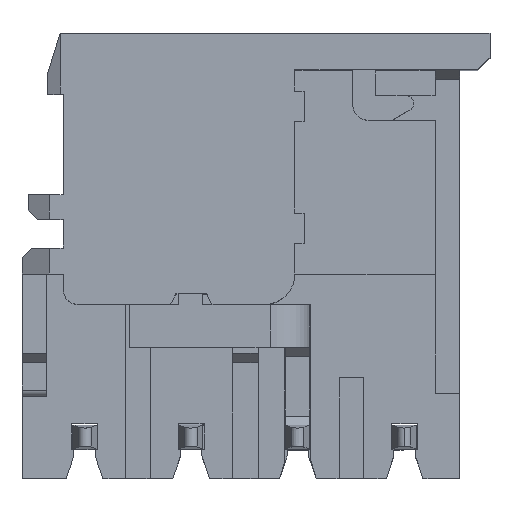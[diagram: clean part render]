
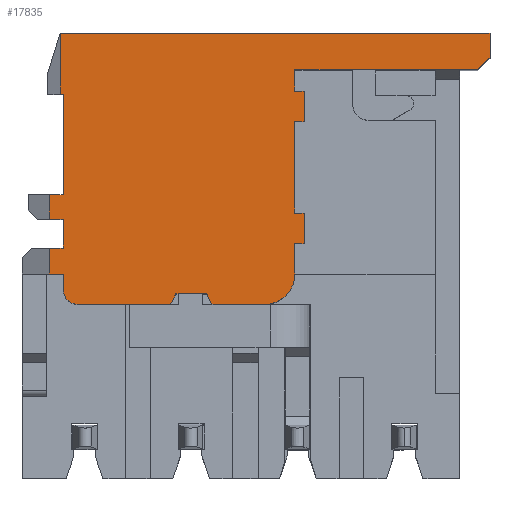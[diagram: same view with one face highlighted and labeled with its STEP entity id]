
A CAD part, top view. The second image highlights one B-rep face of the part: STEP entity #17835.
In plain terms, the highlighted planar face has unit normal (0, 0, 1).
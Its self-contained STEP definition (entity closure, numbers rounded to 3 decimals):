
#2732=DIRECTION('',(0.,-1.,0.));
#2733=VECTOR('',#2732,1.);
#2734=CARTESIAN_POINT('',(0.65,-6.9,7.5));
#2735=LINE('',#2734,#2733);
#4782=DIRECTION('',(0.461,0.888,0.));
#4783=VECTOR('',#4782,0.394);
#4784=CARTESIAN_POINT('',(-3.432,-8.9,7.5));
#4785=LINE('',#4784,#4783);
#4786=DIRECTION('',(1.,0.,0.));
#4787=VECTOR('',#4786,3.018);
#4788=CARTESIAN_POINT('',(-6.45,-8.9,7.5));
#4789=LINE('',#4788,#4787);
#4790=CARTESIAN_POINT('',(-6.45,-8.4,7.5));
#4791=DIRECTION('',(0.,0.,1.));
#4792=DIRECTION('',(-1.,0.,0.));
#4793=AXIS2_PLACEMENT_3D('',#4790,#4791,#4792);
#4795=DIRECTION('',(0.,-1.,0.));
#4796=VECTOR('',#4795,0.5);
#4797=CARTESIAN_POINT('',(-6.95,-7.9,7.5));
#4798=LINE('',#4797,#4796);
#4799=DIRECTION('',(1.,0.,0.));
#4800=VECTOR('',#4799,0.45);
#4801=CARTESIAN_POINT('',(-7.4,-7.9,7.5));
#4802=LINE('',#4801,#4800);
#4803=DIRECTION('',(0.,-1.,0.));
#4804=VECTOR('',#4803,0.85);
#4805=CARTESIAN_POINT('',(-7.4,-7.05,7.5));
#4806=LINE('',#4805,#4804);
#4807=DIRECTION('',(-1.,0.,0.));
#4808=VECTOR('',#4807,0.45);
#4809=CARTESIAN_POINT('',(-6.95,-7.05,7.5));
#4810=LINE('',#4809,#4808);
#4811=DIRECTION('',(0.,-1.,0.));
#4812=VECTOR('',#4811,0.95);
#4813=CARTESIAN_POINT('',(-6.95,-6.1,7.5));
#4814=LINE('',#4813,#4812);
#4815=DIRECTION('',(1.,0.,0.));
#4816=VECTOR('',#4815,0.45);
#4817=CARTESIAN_POINT('',(-7.4,-6.1,7.5));
#4818=LINE('',#4817,#4816);
#4819=DIRECTION('',(0.,-1.,0.));
#4820=VECTOR('',#4819,0.8);
#4821=CARTESIAN_POINT('',(-7.4,-5.3,7.5));
#4822=LINE('',#4821,#4820);
#4823=DIRECTION('',(-1.,0.,0.));
#4824=VECTOR('',#4823,0.45);
#4825=CARTESIAN_POINT('',(-6.95,-5.3,7.5));
#4826=LINE('',#4825,#4824);
#4827=DIRECTION('',(0.,-1.,0.));
#4828=VECTOR('',#4827,3.3);
#4829=CARTESIAN_POINT('',(-6.95,-2.,7.5));
#4830=LINE('',#4829,#4828);
#4831=DIRECTION('',(1.,0.,0.));
#4832=VECTOR('',#4831,0.1);
#4833=CARTESIAN_POINT('',(-7.05,-2.,7.5));
#4834=LINE('',#4833,#4832);
#4835=DIRECTION('',(-1.,0.,0.));
#4836=VECTOR('',#4835,14.1);
#4837=CARTESIAN_POINT('',(7.05,0.,7.5));
#4838=LINE('',#4837,#4836);
#4839=DIRECTION('',(0.,1.,0.));
#4840=VECTOR('',#4839,0.8);
#4841=CARTESIAN_POINT('',(7.05,-0.8,7.5));
#4842=LINE('',#4841,#4840);
#4843=DIRECTION('',(0.707,0.707,0.));
#4844=VECTOR('',#4843,0.566);
#4845=CARTESIAN_POINT('',(6.65,-1.2,7.5));
#4846=LINE('',#4845,#4844);
#4847=DIRECTION('',(1.,0.,0.));
#4848=VECTOR('',#4847,6.);
#4849=CARTESIAN_POINT('',(0.65,-1.2,7.5));
#4850=LINE('',#4849,#4848);
#4851=DIRECTION('',(0.,1.,0.));
#4852=VECTOR('',#4851,0.7);
#4853=CARTESIAN_POINT('',(0.65,-1.9,7.5));
#4854=LINE('',#4853,#4852);
#4855=CARTESIAN_POINT('',(-0.35,-7.9,7.5));
#4856=DIRECTION('',(0.,0.,1.));
#4857=DIRECTION('',(0.,-1.,0.));
#4858=AXIS2_PLACEMENT_3D('',#4855,#4856,#4857);
#4860=DIRECTION('',(1.,0.,0.));
#4861=VECTOR('',#4860,1.718);
#4862=CARTESIAN_POINT('',(-2.068,-8.9,7.5));
#4863=LINE('',#4862,#4861);
#4864=DIRECTION('',(0.461,-0.888,0.));
#4865=VECTOR('',#4864,0.394);
#4866=CARTESIAN_POINT('',(-2.25,-8.55,7.5));
#4867=LINE('',#4866,#4865);
#4868=DIRECTION('',(1.,0.,0.));
#4869=VECTOR('',#4868,1.);
#4870=CARTESIAN_POINT('',(-3.25,-8.55,7.5));
#4871=LINE('',#4870,#4869);
#5675=DIRECTION('',(1.,0.,0.));
#5676=VECTOR('',#5675,0.3);
#5677=CARTESIAN_POINT('',(0.65,-1.9,7.5));
#5678=LINE('',#5677,#5676);
#5687=DIRECTION('',(0.,-1.,0.));
#5688=VECTOR('',#5687,1.);
#5689=CARTESIAN_POINT('',(0.95,-1.9,7.5));
#5690=LINE('',#5689,#5688);
#5703=DIRECTION('',(-1.,0.,0.));
#5704=VECTOR('',#5703,0.3);
#5705=CARTESIAN_POINT('',(0.95,-2.9,7.5));
#5706=LINE('',#5705,#5704);
#5711=DIRECTION('',(0.,-1.,0.));
#5712=VECTOR('',#5711,3.);
#5713=CARTESIAN_POINT('',(0.65,-2.9,7.5));
#5714=LINE('',#5713,#5712);
#5723=DIRECTION('',(1.,0.,0.));
#5724=VECTOR('',#5723,0.3);
#5725=CARTESIAN_POINT('',(0.65,-5.9,7.5));
#5726=LINE('',#5725,#5724);
#5735=DIRECTION('',(0.,-1.,0.));
#5736=VECTOR('',#5735,1.);
#5737=CARTESIAN_POINT('',(0.95,-5.9,7.5));
#5738=LINE('',#5737,#5736);
#5751=DIRECTION('',(-1.,0.,0.));
#5752=VECTOR('',#5751,0.3);
#5753=CARTESIAN_POINT('',(0.95,-6.9,7.5));
#5754=LINE('',#5753,#5752);
#6067=DIRECTION('',(0.,1.,0.));
#6068=VECTOR('',#6067,2.);
#6069=CARTESIAN_POINT('',(-7.05,-2.,7.5));
#6070=LINE('',#6069,#6068);
#8780=CARTESIAN_POINT('',(-6.95,-8.4,7.5));
#8781=VERTEX_POINT('',#8780);
#8782=CARTESIAN_POINT('',(-6.45,-8.9,7.5));
#8783=VERTEX_POINT('',#8782);
#8784=CARTESIAN_POINT('',(-6.95,-7.9,7.5));
#8785=VERTEX_POINT('',#8784);
#8792=CARTESIAN_POINT('',(-7.4,-7.9,7.5));
#8793=VERTEX_POINT('',#8792);
#8830=CARTESIAN_POINT('',(-7.4,-7.05,7.5));
#8831=VERTEX_POINT('',#8830);
#8834=CARTESIAN_POINT('',(-6.95,-7.05,7.5));
#8835=VERTEX_POINT('',#8834);
#8836=CARTESIAN_POINT('',(-6.95,-6.1,7.5));
#8837=VERTEX_POINT('',#8836);
#8838=CARTESIAN_POINT('',(-7.4,-6.1,7.5));
#8840=VERTEX_POINT('',#8838);
#8848=CARTESIAN_POINT('',(-7.4,-5.3,7.5));
#8849=VERTEX_POINT('',#8848);
#8854=CARTESIAN_POINT('',(-6.95,-5.3,7.5));
#8855=VERTEX_POINT('',#8854);
#8856=CARTESIAN_POINT('',(-6.95,-2.,7.5));
#8857=VERTEX_POINT('',#8856);
#8862=CARTESIAN_POINT('',(-7.05,-2.,7.5));
#8863=VERTEX_POINT('',#8862);
#8866=CARTESIAN_POINT('',(-7.05,0.,7.5));
#8867=VERTEX_POINT('',#8866);
#8870=CARTESIAN_POINT('',(7.05,0.,7.5));
#8871=VERTEX_POINT('',#8870);
#8984=CARTESIAN_POINT('',(7.05,-0.8,7.5));
#8985=VERTEX_POINT('',#8984);
#8986=CARTESIAN_POINT('',(6.65,-1.2,7.5));
#8987=VERTEX_POINT('',#8986);
#8989=CARTESIAN_POINT('',(0.65,-1.2,7.5));
#8991=VERTEX_POINT('',#8989);
#9024=CARTESIAN_POINT('',(0.65,-1.9,7.5));
#9025=VERTEX_POINT('',#9024);
#9946=CARTESIAN_POINT('',(-2.068,-8.9,7.5));
#9947=CARTESIAN_POINT('',(-0.35,-8.9,7.5));
#9948=VERTEX_POINT('',#9946);
#9949=VERTEX_POINT('',#9947);
#9950=CARTESIAN_POINT('',(-2.25,-8.55,7.5));
#9951=VERTEX_POINT('',#9950);
#9952=CARTESIAN_POINT('',(-3.25,-8.55,7.5));
#9953=VERTEX_POINT('',#9952);
#9962=CARTESIAN_POINT('',(-3.432,-8.9,7.5));
#9963=VERTEX_POINT('',#9962);
#9968=CARTESIAN_POINT('',(0.95,-1.9,7.5));
#9969=VERTEX_POINT('',#9968);
#9970=CARTESIAN_POINT('',(0.95,-2.9,7.5));
#9971=VERTEX_POINT('',#9970);
#9972=CARTESIAN_POINT('',(0.65,-2.9,7.5));
#9973=VERTEX_POINT('',#9972);
#9974=CARTESIAN_POINT('',(0.65,-5.9,7.5));
#9975=VERTEX_POINT('',#9974);
#9976=CARTESIAN_POINT('',(0.95,-5.9,7.5));
#9977=VERTEX_POINT('',#9976);
#9978=CARTESIAN_POINT('',(0.95,-6.9,7.5));
#9979=VERTEX_POINT('',#9978);
#9980=CARTESIAN_POINT('',(0.65,-6.9,7.5));
#9981=VERTEX_POINT('',#9980);
#9982=CARTESIAN_POINT('',(0.65,-7.9,7.5));
#9983=VERTEX_POINT('',#9982);
#17774=CARTESIAN_POINT('',(0.,0.,7.5));
#17775=DIRECTION('',(0.,0.,1.));
#17776=DIRECTION('',(1.,0.,0.));
#17777=AXIS2_PLACEMENT_3D('',#17774,#17775,#17776);
#17778=PLANE('',#17777);
#17779=ORIENTED_EDGE('',*,*,#15463,.F.);
#17780=ORIENTED_EDGE('',*,*,#15446,.F.);
#17782=ORIENTED_EDGE('',*,*,#17781,.F.);
#17784=ORIENTED_EDGE('',*,*,#17783,.F.);
#17786=ORIENTED_EDGE('',*,*,#17785,.F.);
#17788=ORIENTED_EDGE('',*,*,#17787,.F.);
#17790=ORIENTED_EDGE('',*,*,#17789,.F.);
#17792=ORIENTED_EDGE('',*,*,#17791,.F.);
#17794=ORIENTED_EDGE('',*,*,#17793,.F.);
#17796=ORIENTED_EDGE('',*,*,#17795,.F.);
#17798=ORIENTED_EDGE('',*,*,#17797,.F.);
#17800=ORIENTED_EDGE('',*,*,#17799,.F.);
#17802=ORIENTED_EDGE('',*,*,#17801,.F.);
#17804=ORIENTED_EDGE('',*,*,#17803,.T.);
#17805=ORIENTED_EDGE('',*,*,#13709,.F.);
#17807=ORIENTED_EDGE('',*,*,#17806,.F.);
#17809=ORIENTED_EDGE('',*,*,#17808,.F.);
#17811=ORIENTED_EDGE('',*,*,#17810,.F.);
#17813=ORIENTED_EDGE('',*,*,#17812,.F.);
#17815=ORIENTED_EDGE('',*,*,#17814,.T.);
#17817=ORIENTED_EDGE('',*,*,#17816,.T.);
#17819=ORIENTED_EDGE('',*,*,#17818,.T.);
#17821=ORIENTED_EDGE('',*,*,#17820,.T.);
#17823=ORIENTED_EDGE('',*,*,#17822,.T.);
#17825=ORIENTED_EDGE('',*,*,#17824,.T.);
#17827=ORIENTED_EDGE('',*,*,#17826,.T.);
#17828=ORIENTED_EDGE('',*,*,#14965,.T.);
#17829=ORIENTED_EDGE('',*,*,#14981,.F.);
#17830=ORIENTED_EDGE('',*,*,#15021,.F.);
#17831=ORIENTED_EDGE('',*,*,#17768,.F.);
#17832=ORIENTED_EDGE('',*,*,#15507,.F.);
#17833=EDGE_LOOP('',(#17779,#17780,#17782,#17784,#17786,#17788,#17790,#17792,
#17794,#17796,#17798,#17800,#17802,#17804,#17805,#17807,#17809,#17811,#17813,
#17815,#17817,#17819,#17821,#17823,#17825,#17827,#17828,#17829,#17830,#17831,
#17832));
#17834=FACE_OUTER_BOUND('',#17833,.F.);
#17835=ADVANCED_FACE('',(#17834),#17778,.T.);
#4794=CIRCLE('',#4793,0.5);
#4859=CIRCLE('',#4858,1.);
#13709=EDGE_CURVE('',#8871,#8867,#4838,.T.);
#14965=EDGE_CURVE('',#9981,#9983,#2735,.T.);
#14981=EDGE_CURVE('',#9949,#9983,#4859,.T.);
#15021=EDGE_CURVE('',#9948,#9949,#4863,.T.);
#15446=EDGE_CURVE('',#8783,#9963,#4789,.T.);
#15463=EDGE_CURVE('',#9963,#9953,#4785,.T.);
#15507=EDGE_CURVE('',#9953,#9951,#4871,.T.);
#17768=EDGE_CURVE('',#9951,#9948,#4867,.T.);
#17781=EDGE_CURVE('',#8781,#8783,#4794,.T.);
#17783=EDGE_CURVE('',#8785,#8781,#4798,.T.);
#17785=EDGE_CURVE('',#8793,#8785,#4802,.T.);
#17787=EDGE_CURVE('',#8831,#8793,#4806,.T.);
#17789=EDGE_CURVE('',#8835,#8831,#4810,.T.);
#17791=EDGE_CURVE('',#8837,#8835,#4814,.T.);
#17793=EDGE_CURVE('',#8840,#8837,#4818,.T.);
#17795=EDGE_CURVE('',#8849,#8840,#4822,.T.);
#17797=EDGE_CURVE('',#8855,#8849,#4826,.T.);
#17799=EDGE_CURVE('',#8857,#8855,#4830,.T.);
#17801=EDGE_CURVE('',#8863,#8857,#4834,.T.);
#17803=EDGE_CURVE('',#8863,#8867,#6070,.T.);
#17806=EDGE_CURVE('',#8985,#8871,#4842,.T.);
#17808=EDGE_CURVE('',#8987,#8985,#4846,.T.);
#17810=EDGE_CURVE('',#8991,#8987,#4850,.T.);
#17812=EDGE_CURVE('',#9025,#8991,#4854,.T.);
#17814=EDGE_CURVE('',#9025,#9969,#5678,.T.);
#17816=EDGE_CURVE('',#9969,#9971,#5690,.T.);
#17818=EDGE_CURVE('',#9971,#9973,#5706,.T.);
#17820=EDGE_CURVE('',#9973,#9975,#5714,.T.);
#17822=EDGE_CURVE('',#9975,#9977,#5726,.T.);
#17824=EDGE_CURVE('',#9977,#9979,#5738,.T.);
#17826=EDGE_CURVE('',#9979,#9981,#5754,.T.);
